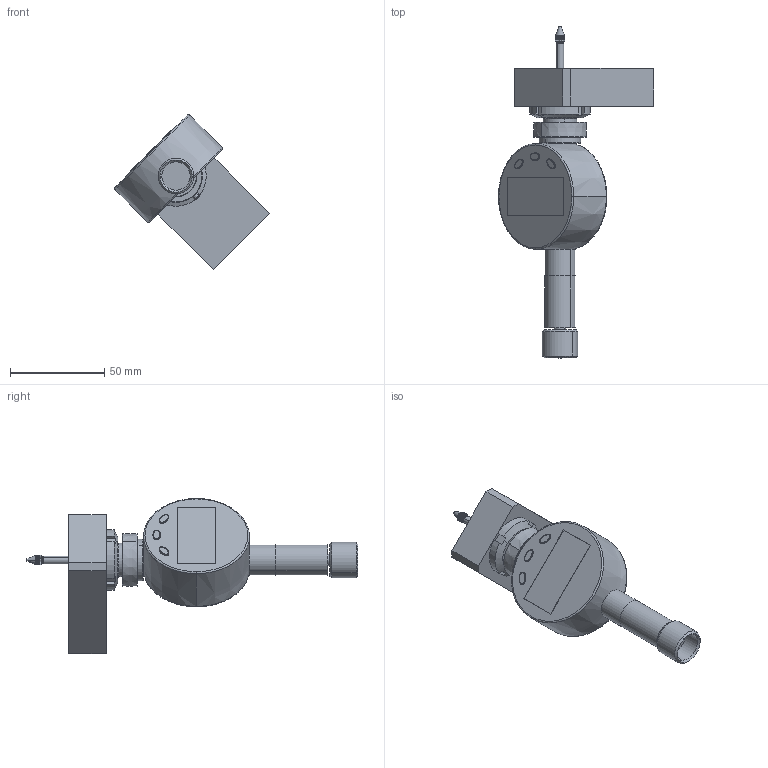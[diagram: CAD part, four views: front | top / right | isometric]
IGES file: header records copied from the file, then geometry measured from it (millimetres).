
Start section: START RECORD GO HERE.
Global section: file name: S0003_ZSB_MESSUHR_STECKBAR_gerade_Spitze_AllCATPart.igs; native system: IBM CATIA IGES - CATIA Version 5 Release 19 ; preprocessor: CATIA Version 5 Release 19 ; author: Administrator; organization: SCHROPPFSC; date: 20101107.185000; units: millimetre
Bounding box: 82.07 x 175.69 x 82.07 mm (x, y, z)
Surface area: 61685.4 mm2 (no closed solid volume)
Topology: 0 solids, 0 shells, 701 faces, 3254 edges, 3245 vertices
Faces by surface type: revolution 337, plane 324, bspline 28, extrusion 12
